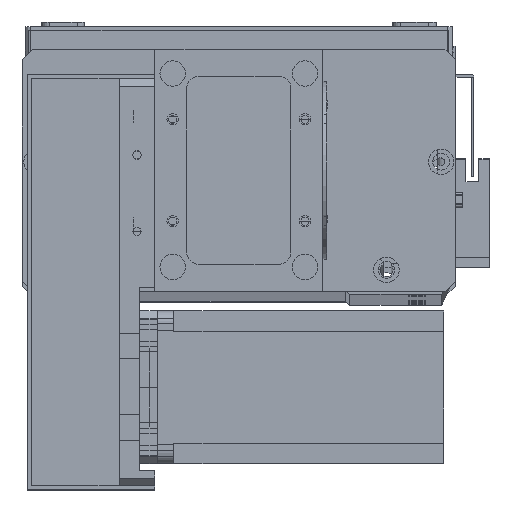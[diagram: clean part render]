
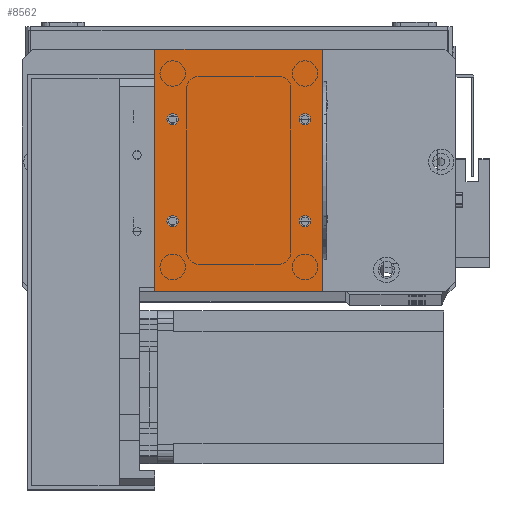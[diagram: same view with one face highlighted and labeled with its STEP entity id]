
A CAD part, top view. The second image highlights one B-rep face of the part: STEP entity #8562.
In plain terms, the highlighted planar face has unit normal (0, 0, 1).
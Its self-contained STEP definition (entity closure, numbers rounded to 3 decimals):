
#91 = EDGE_CURVE ( 'NONE', #20135, #16109, #30850, .T. ) ;
#636 = CARTESIAN_POINT ( 'NONE',  ( 7., 27.5, 2. ) ) ;
#642 = FACE_OUTER_BOUND ( 'NONE', #23362, .T. ) ;
#874 = LINE ( 'NONE', #16634, #7202 ) ;
#1069 = AXIS2_PLACEMENT_3D ( 'NONE', #12481, #12439, #12417 ) ;
#1094 = AXIS2_PLACEMENT_3D ( 'NONE', #8998, #9008, #8977 ) ;
#1402 = CARTESIAN_POINT ( 'NONE',  ( 9.25, 27.5, 2. ) ) ;
#2086 = EDGE_CURVE ( 'NONE', #14460, #14018, #7978, .T. ) ;
#2331 = EDGE_CURVE ( 'NONE', #12840, #31543, #20017, .T. ) ;
#2587 = EDGE_CURVE ( 'NONE', #9792, #17353, #10849, .T. ) ;
#3062 = ORIENTED_EDGE ( 'NONE', *, *, #2086, .F. ) ;
#3324 = CARTESIAN_POINT ( 'NONE',  ( 66., 0., 2. ) ) ;
#3327 = DIRECTION ( 'NONE',  ( 1., 0., 0. ) ) ;
#4354 = DIRECTION ( 'NONE',  ( 0., 0., 1. ) ) ;
#4392 = ORIENTED_EDGE ( 'NONE', *, *, #91, .F. ) ;
#4632 = CARTESIAN_POINT ( 'NONE',  ( 4.75, 67.5, 2. ) ) ;
#5544 = CARTESIAN_POINT ( 'NONE',  ( 61.25, 27.5, 2. ) ) ;
#5629 = EDGE_LOOP ( 'NONE', ( #24469, #4392 ) ) ;
#5998 = DIRECTION ( 'NONE',  ( 0., 0., 1. ) ) ;
#6262 = CARTESIAN_POINT ( 'NONE',  ( 56.75, 67.5, 2. ) ) ;
#7179 = DIRECTION ( 'NONE',  ( 1., 0., 0. ) ) ;
#7202 = VECTOR ( 'NONE', #13944, 1000. ) ;
#7218 = DIRECTION ( 'NONE',  ( 0., 0., 1. ) ) ;
#7252 = CARTESIAN_POINT ( 'NONE',  ( 59., 27.5, 2. ) ) ;
#7746 = EDGE_CURVE ( 'NONE', #31589, #21538, #8273, .T. ) ;
#7811 = FACE_BOUND ( 'NONE', #10684, .T. ) ;
#7978 = CIRCLE ( 'NONE', #13405, 2.25 ) ;
#8273 = LINE ( 'NONE', #23930, #28264 ) ;
#8562 = ADVANCED_FACE ( 'NONE', ( #21836, #14888, #8652, #7811, #642 ), #9122, .F. ) ;
#8611 = CIRCLE ( 'NONE', #21813, 2.25 ) ;
#8652 = FACE_BOUND ( 'NONE', #29739, .T. ) ;
#8977 = DIRECTION ( 'NONE',  ( -1., 0., 0. ) ) ;
#8998 = CARTESIAN_POINT ( 'NONE',  ( 0., 0., 2. ) ) ;
#9008 = DIRECTION ( 'NONE',  ( 0., 0., -1. ) ) ;
#9122 = PLANE ( 'NONE',  #1094 ) ;
#9302 = AXIS2_PLACEMENT_3D ( 'NONE', #636, #19326, #3327 ) ;
#9435 = CARTESIAN_POINT ( 'NONE',  ( 59., 67.5, 2. ) ) ;
#9792 = VERTEX_POINT ( 'NONE', #26456 ) ;
#9838 = CIRCLE ( 'NONE', #28247, 2.25 ) ;
#10005 = ORIENTED_EDGE ( 'NONE', *, *, #7746, .T. ) ;
#10684 = EDGE_LOOP ( 'NONE', ( #18076, #29530 ) ) ;
#10849 = LINE ( 'NONE', #24394, #12524 ) ;
#11187 = ORIENTED_EDGE ( 'NONE', *, *, #20848, .T. ) ;
#11551 = VECTOR ( 'NONE', #33687, 1000. ) ;
#12070 = DIRECTION ( 'NONE',  ( 1., 0., 0. ) ) ;
#12417 = DIRECTION ( 'NONE',  ( 1., 0., 0. ) ) ;
#12439 = DIRECTION ( 'NONE',  ( 0., 0., 1. ) ) ;
#12463 = EDGE_CURVE ( 'NONE', #31768, #23133, #12543, .T. ) ;
#12481 = CARTESIAN_POINT ( 'NONE',  ( 59., 67.5, 2. ) ) ;
#12524 = VECTOR ( 'NONE', #16639, 1000. ) ;
#12543 = CIRCLE ( 'NONE', #26127, 2.25 ) ;
#12840 = VERTEX_POINT ( 'NONE', #1402 ) ;
#13079 = CARTESIAN_POINT ( 'NONE',  ( 0., 0., 2. ) ) ;
#13254 = CARTESIAN_POINT ( 'NONE',  ( 0., 0., 2. ) ) ;
#13405 = AXIS2_PLACEMENT_3D ( 'NONE', #23769, #23446, #23232 ) ;
#13411 = CARTESIAN_POINT ( 'NONE',  ( 0., 95., 2. ) ) ;
#13688 = CARTESIAN_POINT ( 'NONE',  ( 9.25, 67.5, 2. ) ) ;
#13944 = DIRECTION ( 'NONE',  ( 0., 1., 0. ) ) ;
#14018 = VERTEX_POINT ( 'NONE', #13688 ) ;
#14320 = EDGE_LOOP ( 'NONE', ( #27339, #3062 ) ) ;
#14460 = VERTEX_POINT ( 'NONE', #4632 ) ;
#14888 = FACE_BOUND ( 'NONE', #5629, .T. ) ;
#16109 = VERTEX_POINT ( 'NONE', #22711 ) ;
#16283 = DIRECTION ( 'NONE',  ( 1., 0., 0. ) ) ;
#16322 = AXIS2_PLACEMENT_3D ( 'NONE', #25297, #28870, #16283 ) ;
#16455 = EDGE_CURVE ( 'NONE', #23133, #31768, #8611, .T. ) ;
#16634 = CARTESIAN_POINT ( 'NONE',  ( 66., 0., 2. ) ) ;
#16639 = DIRECTION ( 'NONE',  ( -1., 0., 0. ) ) ;
#17353 = VERTEX_POINT ( 'NONE', #13411 ) ;
#18076 = ORIENTED_EDGE ( 'NONE', *, *, #2331, .F. ) ;
#18605 = LINE ( 'NONE', #13079, #11551 ) ;
#19326 = DIRECTION ( 'NONE',  ( 0., 0., 1. ) ) ;
#20017 = CIRCLE ( 'NONE', #16322, 2.25 ) ;
#20135 = VERTEX_POINT ( 'NONE', #6262 ) ;
#20308 = CARTESIAN_POINT ( 'NONE',  ( 59., 27.5, 2. ) ) ;
#20848 = EDGE_CURVE ( 'NONE', #17353, #31589, #18605, .T. ) ;
#21052 = ORIENTED_EDGE ( 'NONE', *, *, #12463, .F. ) ;
#21538 = VERTEX_POINT ( 'NONE', #3324 ) ;
#21813 = AXIS2_PLACEMENT_3D ( 'NONE', #20308, #4354, #22866 ) ;
#21836 = FACE_BOUND ( 'NONE', #14320, .T. ) ;
#21851 = CARTESIAN_POINT ( 'NONE',  ( 7., 67.5, 2. ) ) ;
#22091 = CIRCLE ( 'NONE', #9302, 2.25 ) ;
#22641 = AXIS2_PLACEMENT_3D ( 'NONE', #21851, #5998, #24399 ) ;
#22711 = CARTESIAN_POINT ( 'NONE',  ( 61.25, 67.5, 2. ) ) ;
#22866 = DIRECTION ( 'NONE',  ( 1., 0., 0. ) ) ;
#23133 = VERTEX_POINT ( 'NONE', #5544 ) ;
#23232 = DIRECTION ( 'NONE',  ( 1., 0., 0. ) ) ;
#23362 = EDGE_LOOP ( 'NONE', ( #11187, #10005, #31546, #33207 ) ) ;
#23446 = DIRECTION ( 'NONE',  ( 0., 0., 1. ) ) ;
#23769 = CARTESIAN_POINT ( 'NONE',  ( 7., 67.5, 2. ) ) ;
#23888 = DIRECTION ( 'NONE',  ( 1., 0., 0. ) ) ;
#23930 = CARTESIAN_POINT ( 'NONE',  ( 0., 0., 2. ) ) ;
#24394 = CARTESIAN_POINT ( 'NONE',  ( 0., 95., 2. ) ) ;
#24399 = DIRECTION ( 'NONE',  ( 1., 0., 0. ) ) ;
#24469 = ORIENTED_EDGE ( 'NONE', *, *, #28609, .F. ) ;
#24527 = CARTESIAN_POINT ( 'NONE',  ( 56.75, 27.5, 2. ) ) ;
#25297 = CARTESIAN_POINT ( 'NONE',  ( 7., 27.5, 2. ) ) ;
#26127 = AXIS2_PLACEMENT_3D ( 'NONE', #7252, #7218, #7179 ) ;
#26456 = CARTESIAN_POINT ( 'NONE',  ( 66., 95., 2. ) ) ;
#27042 = ORIENTED_EDGE ( 'NONE', *, *, #16455, .F. ) ;
#27339 = ORIENTED_EDGE ( 'NONE', *, *, #28473, .F. ) ;
#27644 = DIRECTION ( 'NONE',  ( 0., 0., 1. ) ) ;
#28247 = AXIS2_PLACEMENT_3D ( 'NONE', #9435, #27644, #12070 ) ;
#28264 = VECTOR ( 'NONE', #23888, 1000. ) ;
#28473 = EDGE_CURVE ( 'NONE', #14018, #14460, #33675, .T. ) ;
#28609 = EDGE_CURVE ( 'NONE', #16109, #20135, #9838, .T. ) ;
#28870 = DIRECTION ( 'NONE',  ( 0., 0., 1. ) ) ;
#29530 = ORIENTED_EDGE ( 'NONE', *, *, #29622, .F. ) ;
#29622 = EDGE_CURVE ( 'NONE', #31543, #12840, #22091, .T. ) ;
#29739 = EDGE_LOOP ( 'NONE', ( #27042, #21052 ) ) ;
#30261 = EDGE_CURVE ( 'NONE', #21538, #9792, #874, .T. ) ;
#30850 = CIRCLE ( 'NONE', #1069, 2.25 ) ;
#31543 = VERTEX_POINT ( 'NONE', #33847 ) ;
#31546 = ORIENTED_EDGE ( 'NONE', *, *, #30261, .T. ) ;
#31589 = VERTEX_POINT ( 'NONE', #13254 ) ;
#31768 = VERTEX_POINT ( 'NONE', #24527 ) ;
#33207 = ORIENTED_EDGE ( 'NONE', *, *, #2587, .T. ) ;
#33675 = CIRCLE ( 'NONE', #22641, 2.25 ) ;
#33687 = DIRECTION ( 'NONE',  ( 0., -1., 0. ) ) ;
#33847 = CARTESIAN_POINT ( 'NONE',  ( 4.75, 27.5, 2. ) ) ;
